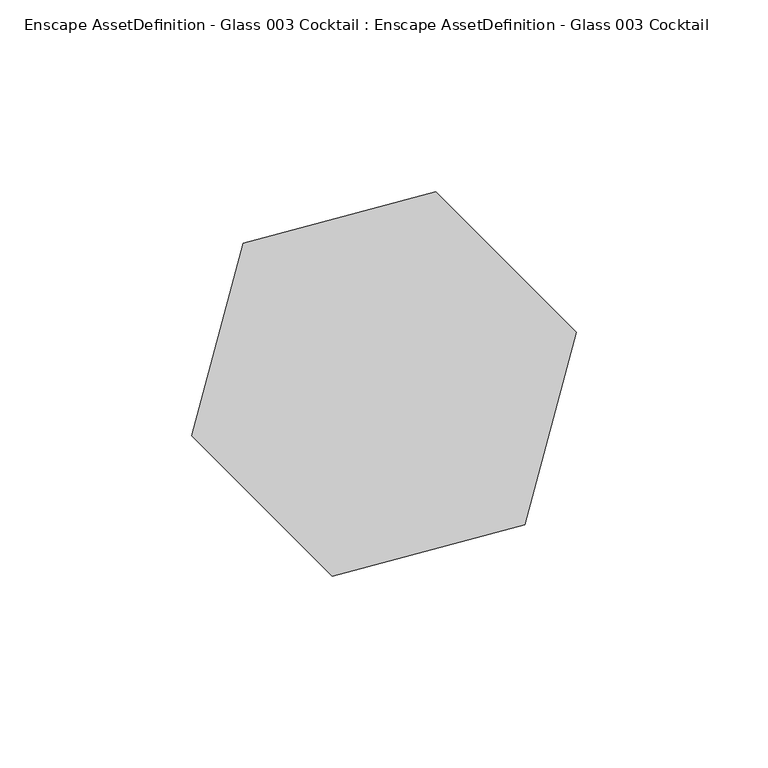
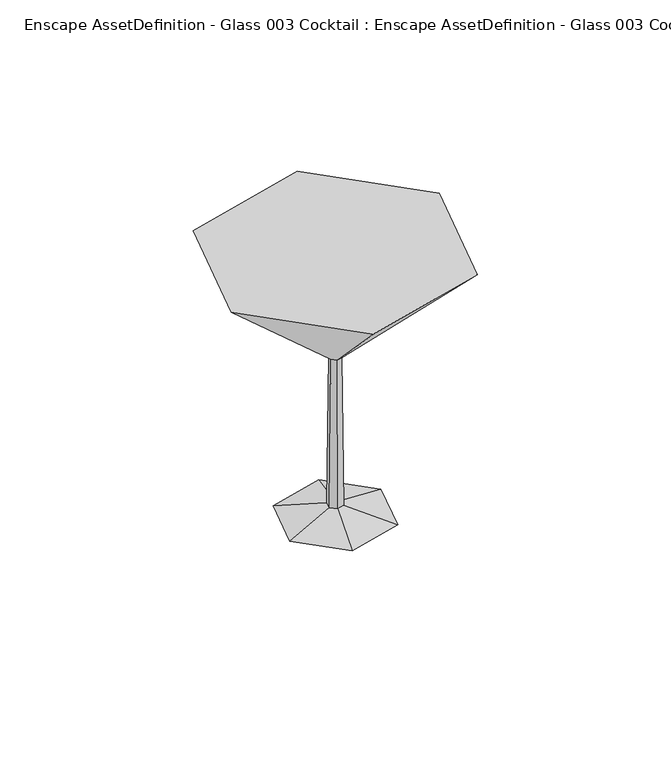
"""IFC4 building model written with IfcOpenShell, lengths in millimetres: geographic element geometry, Enscape AssetDefinition - Glass 003 Cocktail : Enscape AssetDefinition - Glass 003 Cocktail."""

from ifc_helpers import new_model, si_unit, origin, place, context, project, spatial, triangles, source, transform, mapped, element, save


def enscape_assetdefinition_glass_003_cocktail_enscape_7a6d063c(model_context):
    return source(origin(), model_context, "Body", "Tessellation", [
        triangles([(5.8835026, 21.9591202, 0.0), (21.9591202, 5.8835026, 0.0), (-5.8835026, -21.9591202, 0.0), (0.8088537, 3.0166795, 4.8642913), (0.6180424, 2.3074201, 68.5049664), (-2.2087567, 2.2087567, 4.8642913), (-16.0746854, 16.0746854, 0.0), (-21.9591202, -5.8835026, 0.0), (-3.0166795, -0.8088537, 4.8642913), (-2.3074201, -0.6180424, 68.5049664), (-1.6893778, 1.6893778, 68.5049664), (-50.2084951, -13.4535904, 113.3437629), (-13.4535904, -50.2084951, 113.3437629), (-36.7549059, 36.7549059, 113.3437629), (50.2084951, 13.4535904, 113.3437629), (-0.6180424, -2.3074201, 68.5049664), (36.7549059, -36.7549059, 113.3437629), (1.6893778, -1.6893778, 68.5049664), (2.3074201, 0.6180424, 68.5049664), (13.4535904, 50.2084951, 113.3437629), (3.0166795, 0.8088537, 4.8642913), (2.2087567, -2.2087567, 4.8642913), (-0.8088537, -3.0166795, 4.8642913), (16.0746854, -16.0746854, 0.0)], [[8, 3, 23], [21, 22, 24], [22, 23, 3], [3, 24, 22], [23, 22, 18], [19, 18, 22], [22, 21, 19], [5, 19, 21], [19, 5, 20], [14, 20, 5], [20, 14, 15], [18, 19, 15], [20, 15, 19], [15, 17, 18], [16, 18, 17], [18, 16, 23], [14, 13, 15], [13, 17, 15], [17, 13, 16], [14, 12, 13], [12, 14, 11], [5, 11, 14], [13, 12, 10], [10, 16, 13], [11, 10, 12], [16, 10, 9], [9, 23, 16], [23, 9, 8], [3, 8, 7], [7, 8, 9], [10, 11, 6], [6, 9, 10], [9, 6, 7], [11, 5, 4], [4, 6, 11], [21, 4, 5], [6, 4, 1], [1, 7, 6], [24, 3, 2], [3, 7, 2], [7, 1, 2], [24, 2, 21], [4, 21, 2], [2, 1, 4]]),
    ])


if __name__ == "__main__":
    model = new_model("IFC4")
    model_context = context("Model", 3, world=origin())
    ifc_project = project(units=[si_unit("LENGTHUNIT", "METRE", prefix="MILLI")], contexts=[model_context])
    site = spatial("IfcSite", under=ifc_project)
    building = spatial("IfcBuilding", under=site)
    placement = place(None, origin())
    enscape_assetdefinition_glass_003_cocktail_enscape_shape = enscape_assetdefinition_glass_003_cocktail_enscape_7a6d063c(model_context)
    element("IfcGeographicElement", 1, ObjectType="Enscape AssetDefinition - Glass 003 Cocktail : Enscape AssetDefinition - Glass 003 Cocktail", at=placement, inside=building, context=model_context, shape_type="MappedRepresentation", body=[
        mapped(enscape_assetdefinition_glass_003_cocktail_enscape_shape, transform((0.0, 0.0, 0.0), x_axis=(1.0, 0.0, 0.0), y_axis=(0.0, 1.0, 0.0), z_axis=(0.0, 0.0, 1.0))),
    ])
    save(model, "model.ifc")
